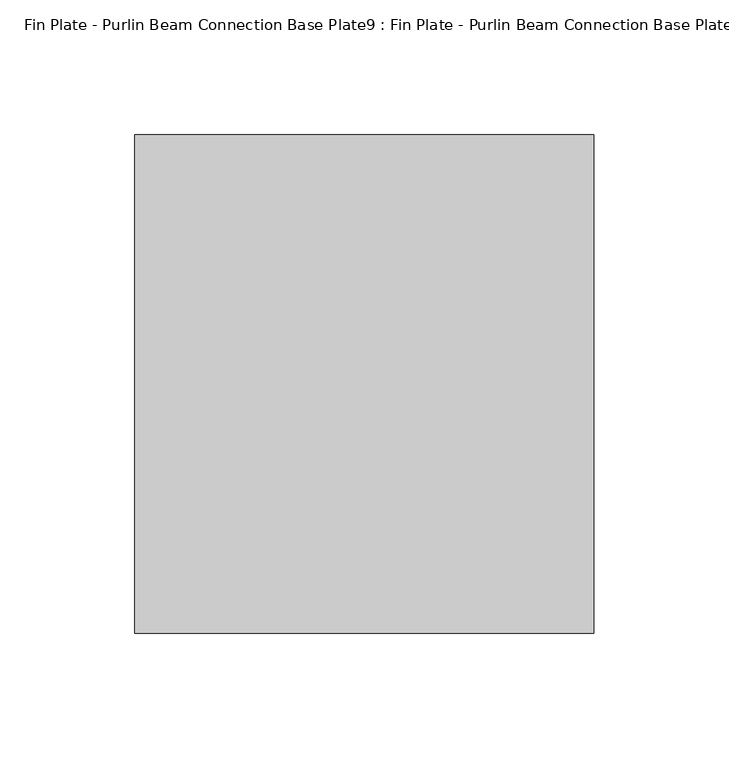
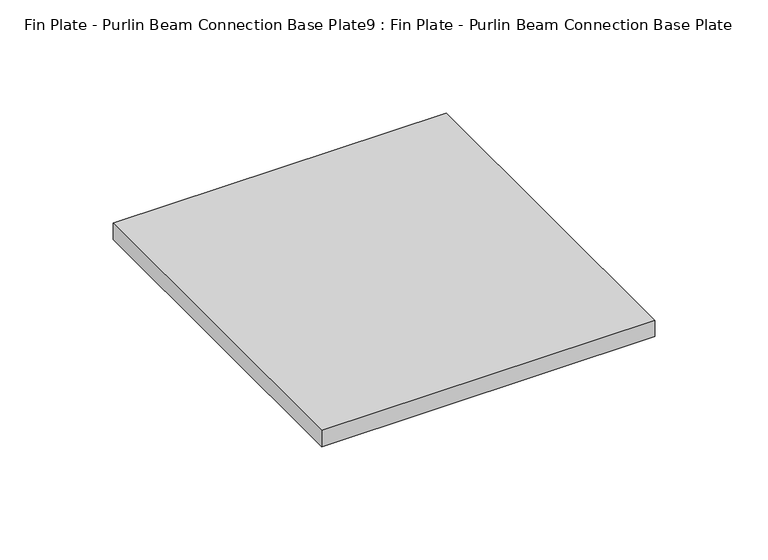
"""IFC4 building model written with IfcOpenShell, lengths in millimetres: proxy geometry, Fin Plate - Purlin Beam Connection Base Plate9 : Fin Plate - Purlin Beam Connection Base Plate."""

from ifc_helpers import new_model, si_unit, frame, origin, place, context, project, spatial, polyline, outline, extrude, source, transform, mapped, element, save


def fin_plate_purlin_beam_connection_base_plate9_fin_plate_a116dd7e(model_context):
    return source(origin(), model_context, "Body", "SweptSolid", [
        extrude(outline(polyline([(-29526.0036256, 15931.623117), (-29526.0036256, 16116.223117), (-29356.0036256, 16116.223117), (-29356.0036256, 15931.623117), (-29526.0036256, 15931.623117)])), frame((0.0, 0.0, 2418.1960911), z_axis=(0.0, 0.0, 1.0), x_axis=(1.0, 0.0, 0.0)), (0.0, 0.0, 1.0), 8.8039089),
    ])


if __name__ == "__main__":
    model = new_model("IFC4")
    model_context = context("Model", 3, world=origin())
    ifc_project = project(units=[si_unit("LENGTHUNIT", "METRE", prefix="MILLI")], contexts=[model_context])
    site = spatial("IfcSite", under=ifc_project)
    building = spatial("IfcBuilding", under=site)
    placement = place(None, origin())
    fin_plate_purlin_beam_connection_base_plate9_fin_plate_shape = fin_plate_purlin_beam_connection_base_plate9_fin_plate_a116dd7e(model_context)
    element("IfcBuildingElementProxy", 1, Name="Fin Plate - Purlin Beam Connection Base Plate9 : Fin Plate - Purlin Beam Connection Base Plate", ObjectType="Fin Plate - Purlin Beam Connection Base Plate9 : Fin Plate - Purlin Beam Connection Base Plate", at=placement, inside=building, context=model_context, shape_type="MappedRepresentation", body=[
        mapped(fin_plate_purlin_beam_connection_base_plate9_fin_plate_shape, transform((0.0, 0.0, 0.0), x_axis=(1.0, 0.0, 0.0), y_axis=(0.0, 1.0, 0.0), z_axis=(0.0, 0.0, 1.0))),
    ])
    save(model, "model.ifc")
